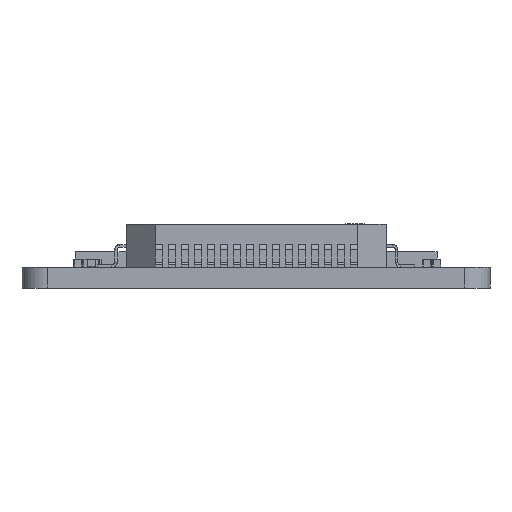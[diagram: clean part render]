
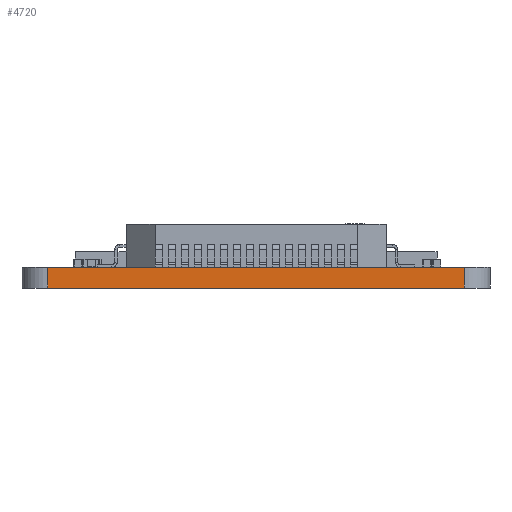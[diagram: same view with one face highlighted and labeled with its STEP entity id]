
A CAD part, front view. The second image highlights one B-rep face of the part: STEP entity #4720.
In plain terms, the highlighted planar face has unit normal (0, -1, 0).
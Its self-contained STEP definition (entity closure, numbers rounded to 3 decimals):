
#131 = CYLINDRICAL_SURFACE('',#132,1.);
#132 = AXIS2_PLACEMENT_3D('',#133,#134,#135);
#133 = CARTESIAN_POINT('',(0.209,0.962,0.));
#134 = DIRECTION('',(0.,0.,-1.));
#135 = DIRECTION('',(0.,-1.,0.));
#159 = PLANE('',#160);
#160 = AXIS2_PLACEMENT_3D('',#161,#162,#163);
#161 = CARTESIAN_POINT('',(-0.791,0.962,0.798));
#162 = DIRECTION('',(0.,0.,1.));
#163 = DIRECTION('',(1.,0.,0.));
#213 = PLANE('',#214);
#214 = AXIS2_PLACEMENT_3D('',#215,#216,#217);
#215 = CARTESIAN_POINT('',(-0.791,0.962,0.));
#216 = DIRECTION('',(0.,0.,1.));
#217 = DIRECTION('',(1.,0.,0.));
#4602 = CYLINDRICAL_SURFACE('',#4603,1.);
#4603 = AXIS2_PLACEMENT_3D('',#4604,#4605,#4606);
#4604 = CARTESIAN_POINT('',(16.209,0.962,0.));
#4605 = DIRECTION('',(0.,0.,-1.));
#4606 = DIRECTION('',(1.,0.,0.));
#4640 = VERTEX_POINT('',#4641);
#4641 = CARTESIAN_POINT('',(16.209,-0.038,0.798));
#4667 = EDGE_CURVE('',#4668,#4640,#4670,.T.);
#4668 = VERTEX_POINT('',#4669);
#4669 = CARTESIAN_POINT('',(16.209,-0.038,0.));
#4670 = SURFACE_CURVE('',#4671,(#4675,#4682),.PCURVE_S1.);
#4671 = LINE('',#4672,#4673);
#4672 = CARTESIAN_POINT('',(16.209,-0.038,0.));
#4673 = VECTOR('',#4674,1.);
#4674 = DIRECTION('',(0.,0.,1.));
#4675 = PCURVE('',#4602,#4676);
#4676 = DEFINITIONAL_REPRESENTATION('',(#4677),#4681);
#4677 = LINE('',#4678,#4679);
#4678 = CARTESIAN_POINT('',(1.571,0.));
#4679 = VECTOR('',#4680,1.);
#4680 = DIRECTION('',(0.,-1.));
#4681 = ( GEOMETRIC_REPRESENTATION_CONTEXT(2) 
PARAMETRIC_REPRESENTATION_CONTEXT() REPRESENTATION_CONTEXT('2D SPACE',''
  ) );
#4682 = PCURVE('',#4683,#4688);
#4683 = PLANE('',#4684);
#4684 = AXIS2_PLACEMENT_3D('',#4685,#4686,#4687);
#4685 = CARTESIAN_POINT('',(16.209,-0.038,0.));
#4686 = DIRECTION('',(0.,-1.,0.));
#4687 = DIRECTION('',(-1.,0.,0.));
#4688 = DEFINITIONAL_REPRESENTATION('',(#4689),#4693);
#4689 = LINE('',#4690,#4691);
#4690 = CARTESIAN_POINT('',(0.,0.));
#4691 = VECTOR('',#4692,1.);
#4692 = DIRECTION('',(0.,-1.));
#4693 = ( GEOMETRIC_REPRESENTATION_CONTEXT(2) 
PARAMETRIC_REPRESENTATION_CONTEXT() REPRESENTATION_CONTEXT('2D SPACE',''
  ) );
#4720 = ADVANCED_FACE('',(#4721),#4683,.T.);
#4721 = FACE_BOUND('',#4722,.T.);
#4722 = EDGE_LOOP('',(#4723,#4724,#4747,#4770));
#4723 = ORIENTED_EDGE('',*,*,#4667,.T.);
#4724 = ORIENTED_EDGE('',*,*,#4725,.T.);
#4725 = EDGE_CURVE('',#4640,#4726,#4728,.T.);
#4726 = VERTEX_POINT('',#4727);
#4727 = CARTESIAN_POINT('',(0.209,-0.038,0.798));
#4728 = SURFACE_CURVE('',#4729,(#4733,#4740),.PCURVE_S1.);
#4729 = LINE('',#4730,#4731);
#4730 = CARTESIAN_POINT('',(16.209,-0.038,0.798));
#4731 = VECTOR('',#4732,1.);
#4732 = DIRECTION('',(-1.,0.,0.));
#4733 = PCURVE('',#4683,#4734);
#4734 = DEFINITIONAL_REPRESENTATION('',(#4735),#4739);
#4735 = LINE('',#4736,#4737);
#4736 = CARTESIAN_POINT('',(0.,-0.798));
#4737 = VECTOR('',#4738,1.);
#4738 = DIRECTION('',(1.,0.));
#4739 = ( GEOMETRIC_REPRESENTATION_CONTEXT(2) 
PARAMETRIC_REPRESENTATION_CONTEXT() REPRESENTATION_CONTEXT('2D SPACE',''
  ) );
#4740 = PCURVE('',#159,#4741);
#4741 = DEFINITIONAL_REPRESENTATION('',(#4742),#4746);
#4742 = LINE('',#4743,#4744);
#4743 = CARTESIAN_POINT('',(17.,-1.));
#4744 = VECTOR('',#4745,1.);
#4745 = DIRECTION('',(-1.,0.));
#4746 = ( GEOMETRIC_REPRESENTATION_CONTEXT(2) 
PARAMETRIC_REPRESENTATION_CONTEXT() REPRESENTATION_CONTEXT('2D SPACE',''
  ) );
#4747 = ORIENTED_EDGE('',*,*,#4748,.F.);
#4748 = EDGE_CURVE('',#4749,#4726,#4751,.T.);
#4749 = VERTEX_POINT('',#4750);
#4750 = CARTESIAN_POINT('',(0.209,-0.038,0.));
#4751 = SURFACE_CURVE('',#4752,(#4756,#4763),.PCURVE_S1.);
#4752 = LINE('',#4753,#4754);
#4753 = CARTESIAN_POINT('',(0.209,-0.038,0.));
#4754 = VECTOR('',#4755,1.);
#4755 = DIRECTION('',(0.,0.,1.));
#4756 = PCURVE('',#4683,#4757);
#4757 = DEFINITIONAL_REPRESENTATION('',(#4758),#4762);
#4758 = LINE('',#4759,#4760);
#4759 = CARTESIAN_POINT('',(16.,0.));
#4760 = VECTOR('',#4761,1.);
#4761 = DIRECTION('',(0.,-1.));
#4762 = ( GEOMETRIC_REPRESENTATION_CONTEXT(2) 
PARAMETRIC_REPRESENTATION_CONTEXT() REPRESENTATION_CONTEXT('2D SPACE',''
  ) );
#4763 = PCURVE('',#131,#4764);
#4764 = DEFINITIONAL_REPRESENTATION('',(#4765),#4769);
#4765 = LINE('',#4766,#4767);
#4766 = CARTESIAN_POINT('',(0.,0.));
#4767 = VECTOR('',#4768,1.);
#4768 = DIRECTION('',(0.,-1.));
#4769 = ( GEOMETRIC_REPRESENTATION_CONTEXT(2) 
PARAMETRIC_REPRESENTATION_CONTEXT() REPRESENTATION_CONTEXT('2D SPACE',''
  ) );
#4770 = ORIENTED_EDGE('',*,*,#4771,.F.);
#4771 = EDGE_CURVE('',#4668,#4749,#4772,.T.);
#4772 = SURFACE_CURVE('',#4773,(#4777,#4784),.PCURVE_S1.);
#4773 = LINE('',#4774,#4775);
#4774 = CARTESIAN_POINT('',(16.209,-0.038,0.));
#4775 = VECTOR('',#4776,1.);
#4776 = DIRECTION('',(-1.,0.,0.));
#4777 = PCURVE('',#4683,#4778);
#4778 = DEFINITIONAL_REPRESENTATION('',(#4779),#4783);
#4779 = LINE('',#4780,#4781);
#4780 = CARTESIAN_POINT('',(0.,0.));
#4781 = VECTOR('',#4782,1.);
#4782 = DIRECTION('',(1.,0.));
#4783 = ( GEOMETRIC_REPRESENTATION_CONTEXT(2) 
PARAMETRIC_REPRESENTATION_CONTEXT() REPRESENTATION_CONTEXT('2D SPACE',''
  ) );
#4784 = PCURVE('',#213,#4785);
#4785 = DEFINITIONAL_REPRESENTATION('',(#4786),#4790);
#4786 = LINE('',#4787,#4788);
#4787 = CARTESIAN_POINT('',(17.,-1.));
#4788 = VECTOR('',#4789,1.);
#4789 = DIRECTION('',(-1.,0.));
#4790 = ( GEOMETRIC_REPRESENTATION_CONTEXT(2) 
PARAMETRIC_REPRESENTATION_CONTEXT() REPRESENTATION_CONTEXT('2D SPACE',''
  ) );
